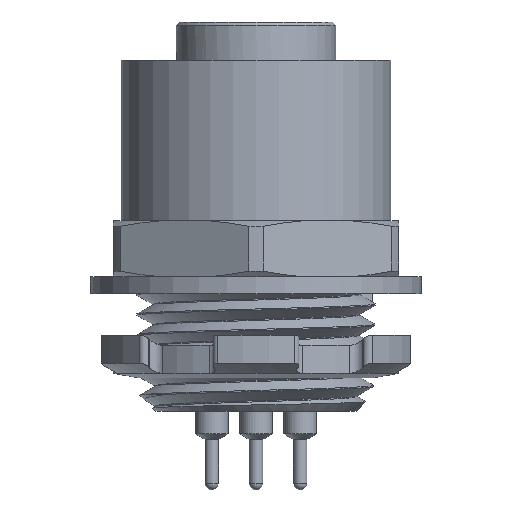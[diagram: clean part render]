
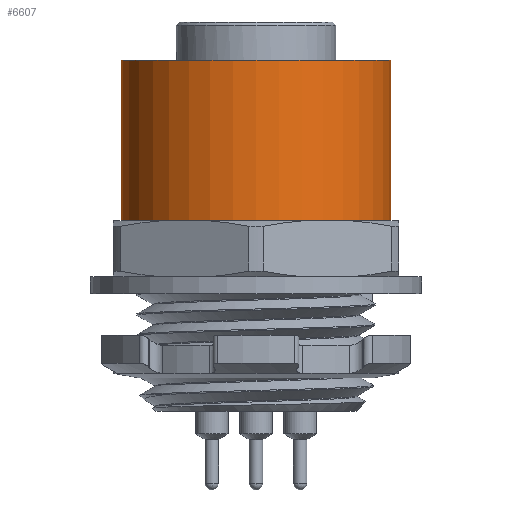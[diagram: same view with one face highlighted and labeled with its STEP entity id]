
A CAD part, front view. The second image highlights one B-rep face of the part: STEP entity #6607.
In plain terms, the highlighted cylindrical face has radius 12 mm (diameter 24 mm), a full revolution.
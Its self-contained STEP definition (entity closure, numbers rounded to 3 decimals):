
#913 = CIRCLE ( 'NONE', #1107, 12. ) ;
#1107 = AXIS2_PLACEMENT_3D ( 'NONE', #3475, #2703, #8281 ) ;
#1358 = DIRECTION ( 'NONE',  ( 1., 0., 0. ) ) ;
#1916 = CARTESIAN_POINT ( 'NONE',  ( 12., 0., -17.7 ) ) ;
#2239 = EDGE_LOOP ( 'NONE', ( #6159 ) ) ;
#2703 = DIRECTION ( 'NONE',  ( 0., 0., 1. ) ) ;
#2997 = ORIENTED_EDGE ( 'NONE', *, *, #4156, .T. ) ;
#3037 = CYLINDRICAL_SURFACE ( 'NONE', #6096, 12. ) ;
#3475 = CARTESIAN_POINT ( 'NONE',  ( 0., 0., -3.4 ) ) ;
#3534 = EDGE_LOOP ( 'NONE', ( #2997 ) ) ;
#4156 = EDGE_CURVE ( 'NONE', #9019, #9019, #5199, .T. ) ;
#4494 = AXIS2_PLACEMENT_3D ( 'NONE', #9330, #6158, #1358 ) ;
#4946 = FACE_OUTER_BOUND ( 'NONE', #3534, .T. ) ;
#5199 = CIRCLE ( 'NONE', #4494, 12. ) ;
#5792 = VERTEX_POINT ( 'NONE', #7515 ) ;
#5827 = DIRECTION ( 'NONE',  ( 1., 0., 0. ) ) ;
#6096 = AXIS2_PLACEMENT_3D ( 'NONE', #7468, #6536, #5827 ) ;
#6158 = DIRECTION ( 'NONE',  ( 0., 0., 1. ) ) ;
#6159 = ORIENTED_EDGE ( 'NONE', *, *, #8743, .F. ) ;
#6536 = DIRECTION ( 'NONE',  ( 0., 0., 1. ) ) ;
#6607 = ADVANCED_FACE ( 'NONE', ( #4946, #7935 ), #3037, .T. ) ;
#7468 = CARTESIAN_POINT ( 'NONE',  ( 0., 0., -3.4 ) ) ;
#7515 = CARTESIAN_POINT ( 'NONE',  ( 12., 0., -3.4 ) ) ;
#7935 = FACE_OUTER_BOUND ( 'NONE', #2239, .T. ) ;
#8281 = DIRECTION ( 'NONE',  ( 1., 0., 0. ) ) ;
#8743 = EDGE_CURVE ( 'NONE', #5792, #5792, #913, .T. ) ;
#9019 = VERTEX_POINT ( 'NONE', #1916 ) ;
#9330 = CARTESIAN_POINT ( 'NONE',  ( 0., 0., -17.7 ) ) ;
